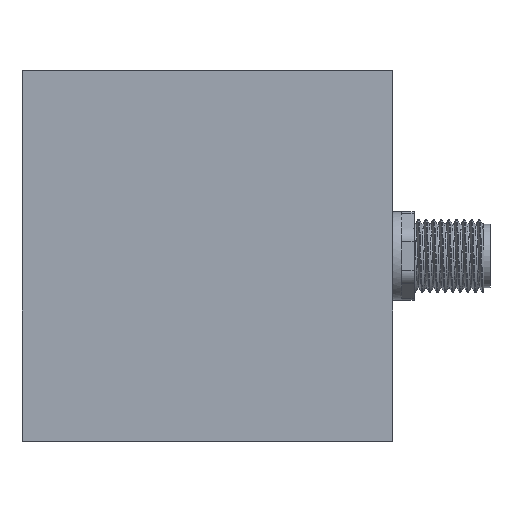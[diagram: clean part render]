
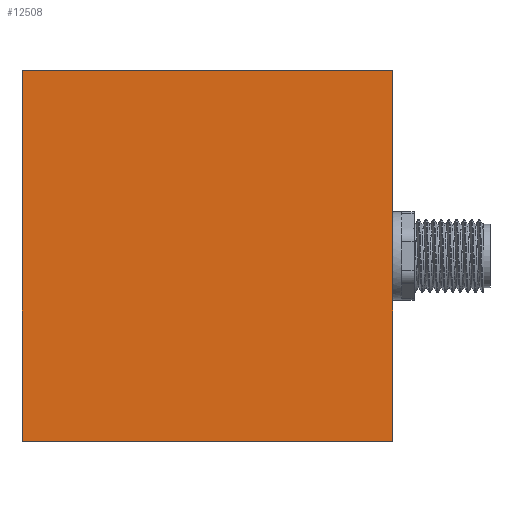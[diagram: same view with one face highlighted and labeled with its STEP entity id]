
A CAD part, top view. The second image highlights one B-rep face of the part: STEP entity #12508.
In plain terms, the highlighted planar face has unit normal (0, 0, 1).
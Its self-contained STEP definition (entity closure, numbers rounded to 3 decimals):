
#448 = LINE ( 'NONE', #4014, #14591 ) ;
#1001 = VECTOR ( 'NONE', #3349, 1000. ) ;
#1310 = LINE ( 'NONE', #8145, #10795 ) ;
#2123 = ORIENTED_EDGE ( 'NONE', *, *, #6974, .T. ) ;
#2216 = DIRECTION ( 'NONE',  ( -1., 0., 0. ) ) ;
#2582 = CARTESIAN_POINT ( 'NONE',  ( -5., -5., 21.06 ) ) ;
#2716 = ORIENTED_EDGE ( 'NONE', *, *, #10957, .T. ) ;
#3148 = VERTEX_POINT ( 'NONE', #2582 ) ;
#3349 = DIRECTION ( 'NONE',  ( 0., -1., 0. ) ) ;
#3504 = PLANE ( 'NONE',  #6468 ) ;
#3542 = ORIENTED_EDGE ( 'NONE', *, *, #4453, .T. ) ;
#3580 = DIRECTION ( 'NONE',  ( -1., 0., 0. ) ) ;
#4000 = EDGE_LOOP ( 'NONE', ( #2123, #3542, #2716, #14123 ) ) ;
#4014 = CARTESIAN_POINT ( 'NONE',  ( 56., 56., 21.06 ) ) ;
#4453 = EDGE_CURVE ( 'NONE', #6048, #6238, #448, .T. ) ;
#5949 = FACE_OUTER_BOUND ( 'NONE', #4000, .T. ) ;
#6048 = VERTEX_POINT ( 'NONE', #6437 ) ;
#6238 = VERTEX_POINT ( 'NONE', #8437 ) ;
#6437 = CARTESIAN_POINT ( 'NONE',  ( 56., -5., 21.06 ) ) ;
#6468 = AXIS2_PLACEMENT_3D ( 'NONE', #8188, #11553, #3580 ) ;
#6690 = CARTESIAN_POINT ( 'NONE',  ( -5., -5., 21.06 ) ) ;
#6729 = CARTESIAN_POINT ( 'NONE',  ( -5., 56., 21.06 ) ) ;
#6974 = EDGE_CURVE ( 'NONE', #3148, #6048, #1310, .T. ) ;
#7678 = VERTEX_POINT ( 'NONE', #6729 ) ;
#8073 = DIRECTION ( 'NONE',  ( 1., 0., 0. ) ) ;
#8145 = CARTESIAN_POINT ( 'NONE',  ( 56., -5., 21.06 ) ) ;
#8188 = CARTESIAN_POINT ( 'NONE',  ( 0., 0., 21.06 ) ) ;
#8437 = CARTESIAN_POINT ( 'NONE',  ( 56., 56., 21.06 ) ) ;
#8937 = LINE ( 'NONE', #6690, #1001 ) ;
#9524 = DIRECTION ( 'NONE',  ( 0., 1., 0. ) ) ;
#10795 = VECTOR ( 'NONE', #8073, 1000. ) ;
#10957 = EDGE_CURVE ( 'NONE', #6238, #7678, #11234, .T. ) ;
#11207 = VECTOR ( 'NONE', #2216, 1000. ) ;
#11234 = LINE ( 'NONE', #12423, #11207 ) ;
#11553 = DIRECTION ( 'NONE',  ( 0., 0., -1. ) ) ;
#12423 = CARTESIAN_POINT ( 'NONE',  ( -5., 56., 21.06 ) ) ;
#12508 = ADVANCED_FACE ( 'NONE', ( #5949 ), #3504, .F. ) ;
#14123 = ORIENTED_EDGE ( 'NONE', *, *, #14621, .T. ) ;
#14591 = VECTOR ( 'NONE', #9524, 1000. ) ;
#14621 = EDGE_CURVE ( 'NONE', #7678, #3148, #8937, .T. ) ;
